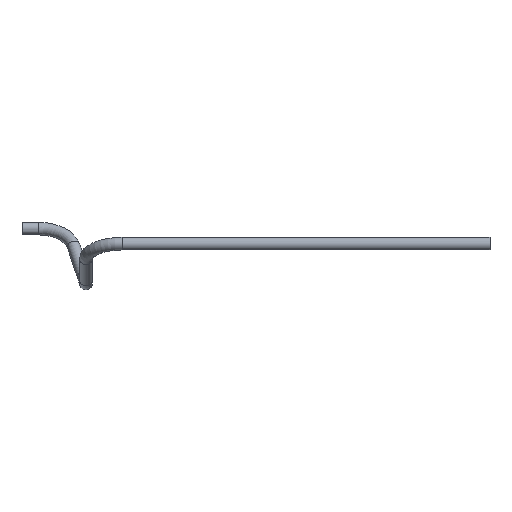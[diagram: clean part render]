
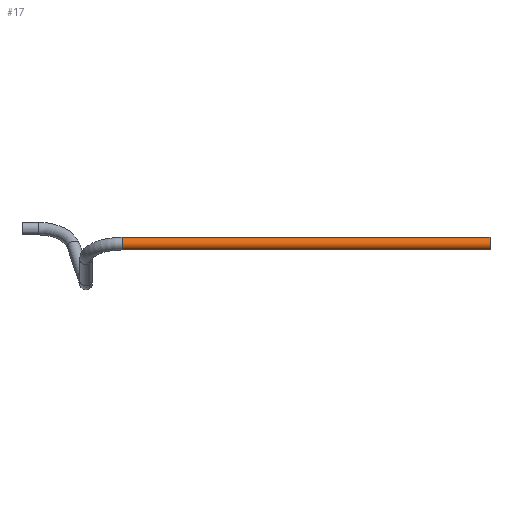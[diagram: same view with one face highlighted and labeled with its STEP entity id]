
A CAD part, front view. The second image highlights one B-rep face of the part: STEP entity #17.
In plain terms, the highlighted cylindrical face has radius 0.525 mm (diameter 1.05 mm), a full revolution.
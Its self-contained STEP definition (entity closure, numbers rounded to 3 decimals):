
#17 = ADVANCED_FACE('',(#18),#32,.T.);
#18 = FACE_BOUND('',#19,.T.);
#19 = EDGE_LOOP('',(#20,#49,#75,#76));
#20 = ORIENTED_EDGE('',*,*,#21,.T.);
#21 = EDGE_CURVE('',#22,#24,#26,.T.);
#22 = VERTEX_POINT('',#23);
#23 = CARTESIAN_POINT('',(11.,-37.1,-8.725));
#24 = VERTEX_POINT('',#25);
#25 = CARTESIAN_POINT('',(-19.5,-37.1,-8.725));
#26 = SEAM_CURVE('',#27,(#31,#42),.PCURVE_S1.);
#27 = LINE('',#28,#29);
#28 = CARTESIAN_POINT('',(11.,-37.1,-8.725));
#29 = VECTOR('',#30,1.);
#30 = DIRECTION('',(-1.,0.,0.));
#31 = PCURVE('',#32,#37);
#32 = CYLINDRICAL_SURFACE('',#33,0.525);
#33 = AXIS2_PLACEMENT_3D('',#34,#35,#36);
#34 = CARTESIAN_POINT('',(11.,-37.1,-8.2));
#35 = DIRECTION('',(-1.,0.,0.));
#36 = DIRECTION('',(0.,0.,-1.));
#37 = DEFINITIONAL_REPRESENTATION('',(#38),#41);
#38 = B_SPLINE_CURVE_WITH_KNOTS('',1,(#39,#40),.UNSPECIFIED.,.F.,.F.,(2,
    2),(0.,30.5),.PIECEWISE_BEZIER_KNOTS.);
#39 = CARTESIAN_POINT('',(6.283,0.));
#40 = CARTESIAN_POINT('',(6.283,30.5));
#41 = ( GEOMETRIC_REPRESENTATION_CONTEXT(2) 
PARAMETRIC_REPRESENTATION_CONTEXT() REPRESENTATION_CONTEXT('2D SPACE',''
  ) );
#42 = PCURVE('',#32,#43);
#43 = DEFINITIONAL_REPRESENTATION('',(#44),#48);
#44 = LINE('',#45,#46);
#45 = CARTESIAN_POINT('',(0.,0.));
#46 = VECTOR('',#47,1.);
#47 = DIRECTION('',(0.,1.));
#48 = ( GEOMETRIC_REPRESENTATION_CONTEXT(2) 
PARAMETRIC_REPRESENTATION_CONTEXT() REPRESENTATION_CONTEXT('2D SPACE',''
  ) );
#49 = ORIENTED_EDGE('',*,*,#50,.F.);
#50 = EDGE_CURVE('',#24,#24,#51,.T.);
#51 = SURFACE_CURVE('',#52,(#57,#64),.PCURVE_S1.);
#52 = CIRCLE('',#53,0.525);
#53 = AXIS2_PLACEMENT_3D('',#54,#55,#56);
#54 = CARTESIAN_POINT('',(-19.5,-37.1,-8.2));
#55 = DIRECTION('',(-1.,0.,0.));
#56 = DIRECTION('',(0.,0.,-1.));
#57 = PCURVE('',#32,#58);
#58 = DEFINITIONAL_REPRESENTATION('',(#59),#63);
#59 = LINE('',#60,#61);
#60 = CARTESIAN_POINT('',(0.,30.5));
#61 = VECTOR('',#62,1.);
#62 = DIRECTION('',(1.,0.));
#63 = ( GEOMETRIC_REPRESENTATION_CONTEXT(2) 
PARAMETRIC_REPRESENTATION_CONTEXT() REPRESENTATION_CONTEXT('2D SPACE',''
  ) );
#64 = PCURVE('',#65,#70);
#65 = TOROIDAL_SURFACE('',#66,3.,0.525);
#66 = AXIS2_PLACEMENT_3D('',#67,#68,#69);
#67 = CARTESIAN_POINT('',(-19.5,-34.379,-9.464));
#68 = DIRECTION('',(0.,-0.421,-0.907)
  );
#69 = DIRECTION('',(0.,-0.907,0.421)
  );
#70 = DEFINITIONAL_REPRESENTATION('',(#71),#74);
#71 = B_SPLINE_CURVE_WITH_KNOTS('',1,(#72,#73),.UNSPECIFIED.,.F.,.F.,(2,
    2),(0.,6.283),.PIECEWISE_BEZIER_KNOTS.);
#72 = CARTESIAN_POINT('',(0.,8.289));
#73 = CARTESIAN_POINT('',(0.,2.006));
#74 = ( GEOMETRIC_REPRESENTATION_CONTEXT(2) 
PARAMETRIC_REPRESENTATION_CONTEXT() REPRESENTATION_CONTEXT('2D SPACE',''
  ) );
#75 = ORIENTED_EDGE('',*,*,#21,.F.);
#76 = ORIENTED_EDGE('',*,*,#77,.T.);
#77 = EDGE_CURVE('',#22,#22,#78,.T.);
#78 = SURFACE_CURVE('',#79,(#84,#91),.PCURVE_S1.);
#79 = CIRCLE('',#80,0.525);
#80 = AXIS2_PLACEMENT_3D('',#81,#82,#83);
#81 = CARTESIAN_POINT('',(11.,-37.1,-8.2));
#82 = DIRECTION('',(-1.,0.,0.));
#83 = DIRECTION('',(0.,0.,-1.));
#84 = PCURVE('',#32,#85);
#85 = DEFINITIONAL_REPRESENTATION('',(#86),#90);
#86 = LINE('',#87,#88);
#87 = CARTESIAN_POINT('',(0.,0.));
#88 = VECTOR('',#89,1.);
#89 = DIRECTION('',(1.,0.));
#90 = ( GEOMETRIC_REPRESENTATION_CONTEXT(2) 
PARAMETRIC_REPRESENTATION_CONTEXT() REPRESENTATION_CONTEXT('2D SPACE',''
  ) );
#91 = PCURVE('',#92,#97);
#92 = PLANE('',#93);
#93 = AXIS2_PLACEMENT_3D('',#94,#95,#96);
#94 = CARTESIAN_POINT('',(11.,-37.1,-8.2));
#95 = DIRECTION('',(-1.,-0.,-0.));
#96 = DIRECTION('',(0.,0.,-1.));
#97 = DEFINITIONAL_REPRESENTATION('',(#98),#102);
#98 = CIRCLE('',#99,0.525);
#99 = AXIS2_PLACEMENT_2D('',#100,#101);
#100 = CARTESIAN_POINT('',(0.,0.));
#101 = DIRECTION('',(1.,0.));
#102 = ( GEOMETRIC_REPRESENTATION_CONTEXT(2) 
PARAMETRIC_REPRESENTATION_CONTEXT() REPRESENTATION_CONTEXT('2D SPACE',''
  ) );
